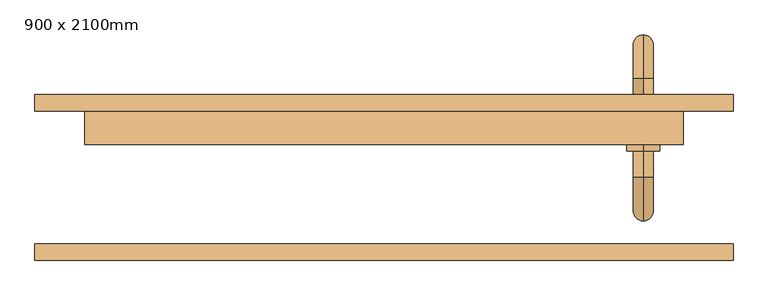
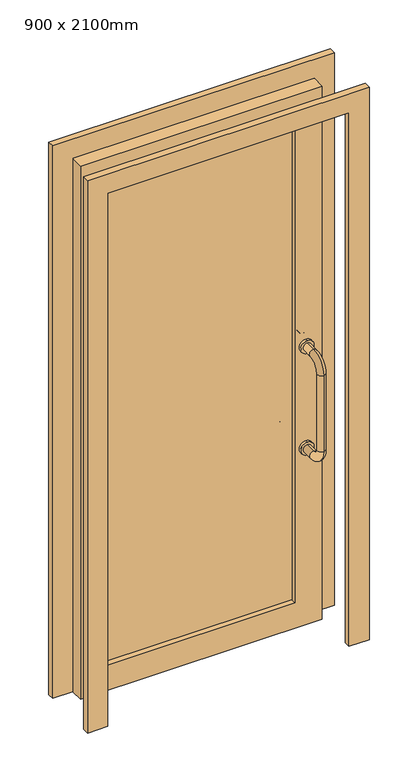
"""IFC4 building model written with IfcOpenShell, lengths in millimetres: door geometry, 单嵌板玻璃门 1 : 900 x 2100mm."""

from ifc_helpers import new_model, si_unit, point, frame, frame_2d, origin, place, context, project, spatial, polyline, circle_curve, ellipse_curve, trimmed, segment, composite_curve, outline, extrude, source, transform, mapped, element, save
from ifc_brep_helpers import plane_surface, cylinder_surface, revolved_surface, advanced_brep


def door_900_x_2100mm_13c7b5d6(model_context):
    return source(origin(), model_context, "Body", "SolidModel", [
        advanced_brep(
        [(390.0, 110.0, 685.0), (390.0, 110.0, 715.0), (390.0, 150.0, 715.0), (390.0, 150.0, 685.0), (390.0, 185.0, 750.0), (390.0, 215.0, 750.0), (390.0, 185.0, 1050.0), (390.0, 215.0, 1050.0), (390.0, 150.0, 1085.0), (390.0, 150.0, 1115.0), (390.0, 110.0, 1115.0), (390.0, 110.0, 1085.0)],
        [
            (0, 1, circle_curve(frame((390.0, 110.0, 700.0), z_axis=(0.0, -1.0, 0.0), x_axis=(0.0, 0.0, 1.0)), 15.0)),
            (1, 0, circle_curve(frame((390.0, 110.0, 700.0), z_axis=(0.0, -1.0, 0.0), x_axis=(0.0, 0.0, 1.0)), 15.0)),
            (1, 2),
            (2, 3, circle_curve(frame((390.0, 150.0, 700.0), z_axis=(0.0, -1.0, 0.0), x_axis=(0.0, 0.0, 1.0)), 15.0)),
            (3, 0),
            (3, 2, circle_curve(frame((390.0, 150.0, 700.0), z_axis=(0.0, -1.0, 0.0), x_axis=(0.0, 0.0, 1.0)), 15.0)),
            (4, 5, circle_curve(frame((390.0, 200.0, 750.0), z_axis=(0.0, 0.0, -1.0), x_axis=(0.0, -1.0, 0.0)), 15.0)),
            (5, 3, circle_curve(frame((390.0, 150.0, 750.0), z_axis=(-1.0, 0.0, 0.0), x_axis=(0.0, 0.0, -1.0)), 65.0)),
            (2, 4, circle_curve(frame((390.0, 150.0, 750.0), z_axis=(1.0, 0.0, 0.0), x_axis=(0.0, 0.0, -1.0)), 35.0)),
            (5, 4, circle_curve(frame((390.0, 200.0, 750.0), z_axis=(0.0, 0.0, -1.0), x_axis=(0.0, -1.0, 0.0)), 15.0)),
            (4, 6),
            (6, 7, circle_curve(frame((390.0, 200.0, 1050.0), z_axis=(0.0, 0.0, -1.0), x_axis=(0.0, -1.0, 0.0)), 15.0)),
            (7, 5),
            (7, 6, circle_curve(frame((390.0, 200.0, 1050.0), z_axis=(0.0, 0.0, -1.0), x_axis=(0.0, -1.0, 0.0)), 15.0)),
            (8, 9, circle_curve(frame((390.0, 150.0, 1100.0), z_axis=(0.0, 1.0, 0.0), x_axis=(0.0, 0.0, -1.0)), 15.0)),
            (9, 7, circle_curve(frame((390.0, 150.0, 1050.0), z_axis=(-1.0, 0.0, 0.0), x_axis=(0.0, 1.0, 0.0)), 65.0)),
            (6, 8, circle_curve(frame((390.0, 150.0, 1050.0), z_axis=(1.0, 0.0, 0.0), x_axis=(0.0, 1.0, 0.0)), 35.0)),
            (9, 8, circle_curve(frame((390.0, 150.0, 1100.0), z_axis=(0.0, 1.0, 0.0), x_axis=(0.0, 0.0, -1.0)), 15.0)),
            (10, 11, circle_curve(frame((390.0, 110.0, 1100.0), z_axis=(0.0, -1.0, 0.0), x_axis=(0.0, 0.0, -1.0)), 15.0)),
            (11, 10, circle_curve(frame((390.0, 110.0, 1100.0), z_axis=(0.0, -1.0, 0.0), x_axis=(0.0, 0.0, -1.0)), 15.0)),
            (8, 11),
            (10, 9),
        ],
        [
            plane_surface(frame((405.0, 110.0, 700.0), z_axis=(0.0, -1.0, 0.0), x_axis=(0.0, 0.0, 1.0))),
            cylinder_surface(frame((390.0, 110.0, 700.0), z_axis=(0.0, -1.0, 0.0), x_axis=(0.0, 0.0, 1.0)), 15.0),
            revolved_surface(trimmed(ellipse_curve(frame((390.0, 150.0, 700.0), z_axis=(0.0, 1.0, 0.0), x_axis=(0.0, 0.0, 1.0)), 15.0, 15.0), [point((390.0, 150.0, 685.0))], [point((390.0, 150.0, 715.0))], True, "CARTESIAN"), (390.0, 150.0, 750.0), (-1.0, 0.0, 0.0)),
            revolved_surface(trimmed(ellipse_curve(frame((390.0, 150.0, 700.0), z_axis=(0.0, 1.0, 0.0), x_axis=(0.0, 0.0, 1.0)), 15.0, 15.0), [point((390.0, 150.0, 715.0))], [point((390.0, 150.0, 685.0))], True, "CARTESIAN"), (390.0, 150.0, 750.0), (-1.0, 0.0, 0.0)),
            cylinder_surface(frame((390.0, 200.0, 750.0), z_axis=(0.0, 0.0, -1.0), x_axis=(0.0, -1.0, 0.0)), 15.0),
            revolved_surface(trimmed(ellipse_curve(frame((390.0, 200.0, 1050.0), z_axis=(0.0, 0.0, 1.0), x_axis=(0.0, -1.0, 0.0)), 15.0, 15.0), [point((390.0, 215.0, 1050.0))], [point((390.0, 185.0, 1050.0))], True, "CARTESIAN"), (390.0, 150.0, 1050.0), (-1.0, 0.0, 0.0)),
            revolved_surface(trimmed(ellipse_curve(frame((390.0, 200.0, 1050.0), z_axis=(0.0, 0.0, 1.0), x_axis=(0.0, -1.0, 0.0)), 15.0, 15.0), [point((390.0, 185.0, 1050.0))], [point((390.0, 215.0, 1050.0))], True, "CARTESIAN"), (390.0, 150.0, 1050.0), (-1.0, 0.0, 0.0)),
            plane_surface(frame((405.0, 110.0, 1100.0), z_axis=(0.0, -1.0, 0.0), x_axis=(0.0, 0.0, -1.0))),
            cylinder_surface(frame((390.0, 150.0, 1100.0), z_axis=(0.0, 1.0, 0.0), x_axis=(0.0, 0.0, -1.0)), 15.0),
        ],
        [
            (0, [[1, 2]]),
            (1, [[3, 4, 5, -2]]),
            (1, [[-5, 6, -3, -1]]),
            (2, [[7, 8, -4, 9]]),
            (3, [[10, -9, -6, -8]]),
            (4, [[11, 12, 13, -7]]),
            (4, [[-13, 14, -11, -10]]),
            (5, [[15, 16, -12, 17]]),
            (6, [[18, -17, -14, -16]]),
            (7, [[19, 20]]),
            (8, [[21, -19, 22, -15]]),
            (8, [[-22, -20, -21, -18]]),
        ],
    ),
        extrude(outline(composite_curve([segment(trimmed(circle_curve(frame_2d((1100.0, 390.0)), 25.0), [point((1075.0, 390.0))], [point((1125.0, 390.0))], False, "CARTESIAN"), True, "CONTINUOUS"), segment(trimmed(circle_curve(frame_2d((1100.0, 390.0)), 25.0), [point((1125.0, 390.0))], [point((1075.0, 390.0))], False, "CARTESIAN"), True, "CONTINUOUS")], self_intersect=False)), frame((0.0, 100.0, 0.0), z_axis=(0.0, 1.0, 0.0), x_axis=(0.0, 0.0, 1.0)), (0.0, 0.0, 1.0), 10.0),
        extrude(outline(composite_curve([segment(trimmed(circle_curve(frame_2d((700.0, 390.0)), 25.0), [point((675.0, 390.0))], [point((725.0, 390.0))], False, "CARTESIAN"), True, "CONTINUOUS"), segment(trimmed(circle_curve(frame_2d((700.0, 390.0)), 25.0), [point((725.0, 390.0))], [point((675.0, 390.0))], False, "CARTESIAN"), True, "CONTINUOUS")], self_intersect=False)), frame((0.0, 100.0, 0.0), z_axis=(0.0, 1.0, 0.0), x_axis=(0.0, 0.0, 1.0)), (0.0, 0.0, 1.0), 10.0),
        advanced_brep(
        [(390.0, 40.0, 715.0), (390.0, 40.0, 685.0), (390.0, 0.0, 685.0), (390.0, 0.0, 715.0), (390.0, -65.0, 750.0), (390.0, -35.0, 750.0), (390.0, -65.0, 1050.0), (390.0, -35.0, 1050.0), (390.0, 0.0, 1115.0), (390.0, 0.0, 1085.0), (390.0, 40.0, 1115.0), (390.0, 40.0, 1085.0), (390.0, 40.0, 1075.0), (390.0, 40.0, 1125.0), (390.0, 40.0, 675.0), (390.0, 40.0, 725.0), (390.0, 50.0, 1075.0), (390.0, 50.0, 1125.0), (390.0, 50.0, 675.0), (390.0, 50.0, 725.0)],
        [
            (0, 1, circle_curve(frame((390.0, 40.0, 700.0), z_axis=(0.0, -1.0, 0.0), x_axis=(0.0, 0.0, -1.0)), 15.0)),
            (1, 2),
            (2, 3, circle_curve(frame((390.0, 0.0, 700.0), z_axis=(0.0, 1.0, 0.0), x_axis=(0.0, 0.0, -1.0)), 15.0)),
            (3, 0),
            (3, 2, circle_curve(frame((390.0, 0.0, 700.0), z_axis=(0.0, 1.0, 0.0), x_axis=(0.0, 0.0, -1.0)), 15.0)),
            (1, 0, circle_curve(frame((390.0, 40.0, 700.0), z_axis=(0.0, -1.0, 0.0), x_axis=(0.0, 0.0, -1.0)), 15.0)),
            (2, 4, circle_curve(frame((390.0, 0.0, 750.0), z_axis=(-1.0, 0.0, 0.0), x_axis=(0.0, 0.0, -1.0)), 65.0)),
            (4, 5, circle_curve(frame((390.0, -50.0, 750.0), z_axis=(0.0, 0.0, -1.0), x_axis=(0.0, -1.0, 0.0)), 15.0)),
            (5, 3, circle_curve(frame((390.0, 0.0, 750.0), z_axis=(1.0, 0.0, 0.0), x_axis=(0.0, 0.0, -1.0)), 35.0)),
            (5, 4, circle_curve(frame((390.0, -50.0, 750.0), z_axis=(0.0, 0.0, -1.0), x_axis=(0.0, -1.0, 0.0)), 15.0)),
            (4, 6),
            (6, 7, circle_curve(frame((390.0, -50.0, 1050.0), z_axis=(0.0, 0.0, -1.0), x_axis=(0.0, -1.0, 0.0)), 15.0)),
            (7, 5),
            (7, 6, circle_curve(frame((390.0, -50.0, 1050.0), z_axis=(0.0, 0.0, -1.0), x_axis=(0.0, -1.0, 0.0)), 15.0)),
            (6, 8, circle_curve(frame((390.0, 0.0, 1050.0), z_axis=(-1.0, 0.0, 0.0), x_axis=(0.0, -1.0, 0.0)), 65.0)),
            (8, 9, circle_curve(frame((390.0, 0.0, 1100.0), z_axis=(0.0, -1.0, 0.0), x_axis=(0.0, 0.0, 1.0)), 15.0)),
            (9, 7, circle_curve(frame((390.0, 0.0, 1050.0), z_axis=(1.0, 0.0, 0.0), x_axis=(0.0, -1.0, 0.0)), 35.0)),
            (9, 8, circle_curve(frame((390.0, 0.0, 1100.0), z_axis=(0.0, -1.0, 0.0), x_axis=(0.0, 0.0, 1.0)), 15.0)),
            (8, 10),
            (10, 11, circle_curve(frame((390.0, 40.0, 1100.0), z_axis=(0.0, -1.0, 0.0), x_axis=(0.0, 0.0, 1.0)), 15.0)),
            (11, 9),
            (11, 10, circle_curve(frame((390.0, 40.0, 1100.0), z_axis=(0.0, -1.0, 0.0), x_axis=(0.0, 0.0, 1.0)), 15.0)),
            (12, 13, circle_curve(frame((390.0, 40.0, 1100.0), z_axis=(0.0, -1.0, 0.0), x_axis=(-1.0, 0.0, 0.0)), 25.0)),
            (13, 12, circle_curve(frame((390.0, 40.0, 1100.0), z_axis=(0.0, -1.0, 0.0), x_axis=(-1.0, 0.0, 0.0)), 25.0)),
            (14, 15, circle_curve(frame((390.0, 40.0, 700.0), z_axis=(0.0, -1.0, 0.0), x_axis=(-1.0, 0.0, 0.0)), 25.0)),
            (15, 14, circle_curve(frame((390.0, 40.0, 700.0), z_axis=(0.0, -1.0, 0.0), x_axis=(-1.0, 0.0, 0.0)), 25.0)),
            (16, 17, circle_curve(frame((390.0, 50.0, 1100.0), z_axis=(0.0, 1.0, 0.0), x_axis=(-1.0, 0.0, 0.0)), 25.0)),
            (17, 16, circle_curve(frame((390.0, 50.0, 1100.0), z_axis=(0.0, 1.0, 0.0), x_axis=(-1.0, 0.0, 0.0)), 25.0)),
            (18, 19, circle_curve(frame((390.0, 50.0, 700.0), z_axis=(0.0, 1.0, 0.0), x_axis=(-1.0, 0.0, 0.0)), 25.0)),
            (19, 18, circle_curve(frame((390.0, 50.0, 700.0), z_axis=(0.0, 1.0, 0.0), x_axis=(-1.0, 0.0, 0.0)), 25.0)),
            (13, 17),
            (16, 12),
            (15, 19),
            (18, 14),
        ],
        [
            cylinder_surface(frame((390.0, 40.0, 700.0), z_axis=(0.0, 1.0, 0.0), x_axis=(0.0, 0.0, -1.0)), 15.0),
            revolved_surface(trimmed(ellipse_curve(frame((390.0, 0.0, 700.0), z_axis=(0.0, -1.0, 0.0), x_axis=(0.0, 0.0, -1.0)), 15.0, 15.0), [point((390.0, 0.0, 715.0))], [point((390.0, 0.0, 685.0))], True, "CARTESIAN"), (390.0, 0.0, 750.0), (1.0, 0.0, 0.0)),
            revolved_surface(trimmed(ellipse_curve(frame((390.0, 0.0, 700.0), z_axis=(0.0, -1.0, 0.0), x_axis=(0.0, 0.0, -1.0)), 15.0, 15.0), [point((390.0, 0.0, 685.0))], [point((390.0, 0.0, 715.0))], True, "CARTESIAN"), (390.0, 0.0, 750.0), (1.0, 0.0, 0.0)),
            cylinder_surface(frame((390.0, -50.0, 750.0), z_axis=(0.0, 0.0, -1.0), x_axis=(0.0, -1.0, 0.0)), 15.0),
            revolved_surface(trimmed(ellipse_curve(frame((390.0, -50.0, 1050.0), z_axis=(0.0, 0.0, 1.0), x_axis=(0.0, -1.0, 0.0)), 15.0, 15.0), [point((390.0, -35.0, 1050.0))], [point((390.0, -65.0, 1050.0))], True, "CARTESIAN"), (390.0, 0.0, 1050.0), (1.0, 0.0, 0.0)),
            revolved_surface(trimmed(ellipse_curve(frame((390.0, -50.0, 1050.0), z_axis=(0.0, 0.0, 1.0), x_axis=(0.0, -1.0, 0.0)), 15.0, 15.0), [point((390.0, -65.0, 1050.0))], [point((390.0, -35.0, 1050.0))], True, "CARTESIAN"), (390.0, 0.0, 1050.0), (1.0, 0.0, 0.0)),
            cylinder_surface(frame((390.0, 0.0, 1100.0), z_axis=(0.0, -1.0, 0.0), x_axis=(0.0, 0.0, 1.0)), 15.0),
            plane_surface(frame((365.0, 40.0, 1100.0), z_axis=(0.0, -1.0, 0.0), x_axis=(0.0, 0.0, 1.0))),
            plane_surface(frame((365.0, 50.0, 1100.0), z_axis=(0.0, 1.0, 0.0), x_axis=(0.0, 0.0, -1.0))),
            cylinder_surface(frame((390.0, 50.0, 1100.0), z_axis=(0.0, -1.0, 0.0), x_axis=(-1.0, 0.0, 0.0)), 25.0),
            cylinder_surface(frame((390.0, 75.0, 700.0), z_axis=(0.0, -1.0, 0.0), x_axis=(-1.0, 0.0, 0.0)), 25.0),
        ],
        [
            (0, [[1, 2, 3, 4]]),
            (0, [[5, -2, 6, -4]]),
            (1, [[7, 8, 9, -3]]),
            (2, [[-9, 10, -7, -5]]),
            (3, [[11, 12, 13, -8]]),
            (3, [[-13, 14, -11, -10]]),
            (4, [[15, 16, 17, -12]]),
            (5, [[-17, 18, -15, -14]]),
            (6, [[19, 20, 21, -16]]),
            (6, [[-21, 22, -19, -18]]),
            (7, [[23, 24], [-22, -20]]),
            (7, [[25, 26], [-6, -1]]),
            (8, [[27, 28]]),
            (8, [[29, 30]]),
            (9, [[31, -27, 32, -24]]),
            (9, [[-32, -28, -31, -23]]),
            (10, [[33, -29, 34, -26]]),
            (10, [[-34, -30, -33, -25]]),
        ],
    ),
        extrude(outline(polyline([(350.0, 71.0), (-350.0, 71.0), (-350.0, 79.0), (350.0, 79.0), (350.0, 71.0)])), frame((0.0, 0.0, 100.0), z_axis=(0.0, 0.0, 1.0), x_axis=(1.0, 0.0, 0.0)), (0.0, 0.0, 1.0), 1900.0),
        extrude(outline(polyline([(2100.0, 450.0), (2100.0, -450.0), (0.0, -450.0), (0.0, 450.0), (2100.0, 450.0)]), holes=[polyline([(2000.0, -350.0), (2000.0, 350.0), (100.0, 350.0), (100.0, -350.0), (2000.0, -350.0)])]), frame((0.0, 50.0, 0.0), z_axis=(0.0, 1.0, 0.0), x_axis=(0.0, 0.0, 1.0)), (0.0, 0.0, 1.0), 50.0),
        extrude(outline(polyline([(2100.0, 450.0), (0.0, 450.0), (0.0, 525.0), (2175.0, 525.0), (2175.0, -525.0), (0.0, -525.0), (0.0, -450.0), (2100.0, -450.0), (2100.0, 450.0)])), frame((0.0, -125.0, 0.0), z_axis=(0.0, 1.0, 0.0), x_axis=(0.0, 0.0, 1.0)), (0.0, 0.0, 1.0), 25.0),
        extrude(outline(polyline([(2100.0, 450.0), (0.0, 450.0), (0.0, 525.0), (2175.0, 525.0), (2175.0, -525.0), (0.0, -525.0), (0.0, -450.0), (2100.0, -450.0), (2100.0, 450.0)])), frame((0.0, 100.0, 0.0), z_axis=(0.0, 1.0, 0.0), x_axis=(0.0, 0.0, 1.0)), (0.0, 0.0, 1.0), 25.0),
    ])


if __name__ == "__main__":
    model = new_model("IFC4")
    model_context = context("Model", 3, world=origin())
    ifc_project = project(units=[si_unit("LENGTHUNIT", "METRE", prefix="MILLI")], contexts=[model_context])
    site = spatial("IfcSite", under=ifc_project)
    building = spatial("IfcBuilding", under=site)
    placement = place(None, origin())
    door_900_x_2100mm_shape = door_900_x_2100mm_13c7b5d6(model_context)
    element("IfcDoor", 1, ObjectType="单嵌板玻璃门 1 : 900 x 2100mm", at=placement, inside=building, context=model_context, shape_type="MappedRepresentation", body=[
        mapped(door_900_x_2100mm_shape, transform((0.0, 0.0, 0.0), x_axis=(1.0, 0.0, 0.0), y_axis=(0.0, 1.0, 0.0), z_axis=(0.0, 0.0, 1.0))),
    ])
    save(model, "model.ifc")
